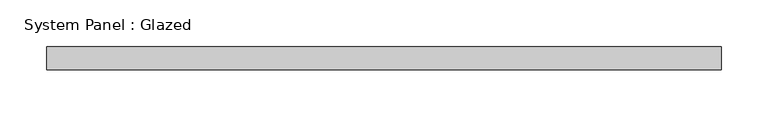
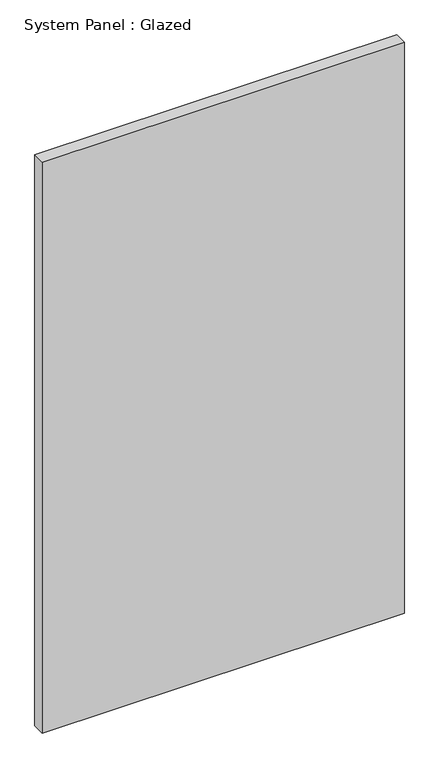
"""IFC4 building model written with IfcOpenShell, lengths in millimetres: plate geometry, System Panel : Glazed."""

from ifc_helpers import new_model, si_unit, origin, origin_with_axes, place, context, project, spatial, polyline, outline, extrude, source, transform, mapped, element, save


def system_panel_glazed_5cd88ea6(model_context):
    return source(origin(), model_context, "Body", "SweptSolid", [
        extrude(outline(polyline([(362.5, -12.5), (-362.5, -12.5), (-362.5, 12.5), (362.5, 12.5), (362.5, -12.5)])), origin_with_axes(), (0.0, 0.0, 1.0), 1207.5841161),
    ])


if __name__ == "__main__":
    model = new_model("IFC4")
    model_context = context("Model", 3, world=origin())
    ifc_project = project(units=[si_unit("LENGTHUNIT", "METRE", prefix="MILLI")], contexts=[model_context])
    site = spatial("IfcSite", under=ifc_project)
    building = spatial("IfcBuilding", under=site)
    placement = place(None, origin())
    system_panel_glazed_shape = system_panel_glazed_5cd88ea6(model_context)
    element("IfcPlate", 1, ObjectType="System Panel : Glazed", at=placement, inside=building, context=model_context, shape_type="MappedRepresentation", body=[
        mapped(system_panel_glazed_shape, transform((0.0, 0.0, 0.0), x_axis=(1.0, 0.0, 0.0), y_axis=(0.0, 1.0, 0.0), z_axis=(0.0, 0.0, 1.0))),
    ])
    save(model, "model.ifc")
